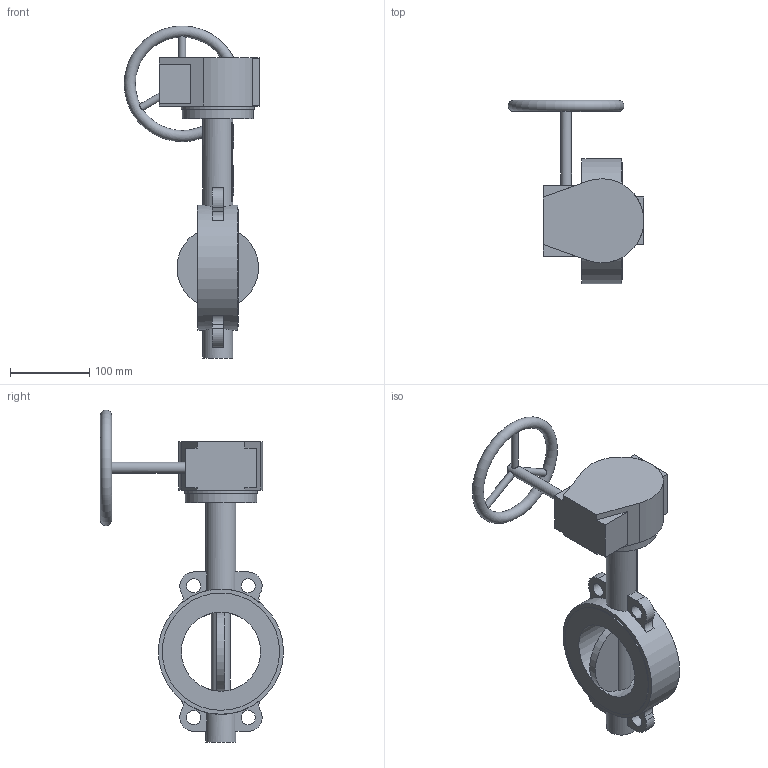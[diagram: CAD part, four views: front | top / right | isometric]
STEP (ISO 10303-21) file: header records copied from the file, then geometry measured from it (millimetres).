
FILE_DESCRIPTION(('STEP AP203'), '1');
FILE_NAME('青蜮铕 017WDN100 疱潴牝铕', '', ('UNSPECIFIED'), ('UNSPECIFIED'), 'ASCON STEP Converter 1.6', 'ASCON Math Kernel', '');
FILE_SCHEMA(('CONFIG_CONTROL_DESIGN'));
Length unit declared in the file: millimetre
Bounding box: 171 x 231 x 418.98 mm (x, y, z)
Volume: 800033.6 mm3; surface area: 210529 mm2
Topology: 1 solids, 2 shells, 661 faces, 1925 edges, 1238 vertices
Faces by surface type: cylinder 465, plane 195, torus 1
Full cylindrical faces by diameter (mm): 6.7 x4, 9 x3, 10 x4, 14 x1, 15.9 x1, 18 x4, 38 x2, 55 x1, 90 x1, 92 x1, 100 x1, 148 x2, 158 x1
Entity records: 29056 total; most frequent: CARTESIAN_POINT 5429, DIRECTION 4181, ORIENTED_EDGE 3731, EDGE_CURVE 1897, AXIS2_PLACEMENT_3D 1646, VERTEX_POINT 1237, CIRCLE 984, LINE 889
